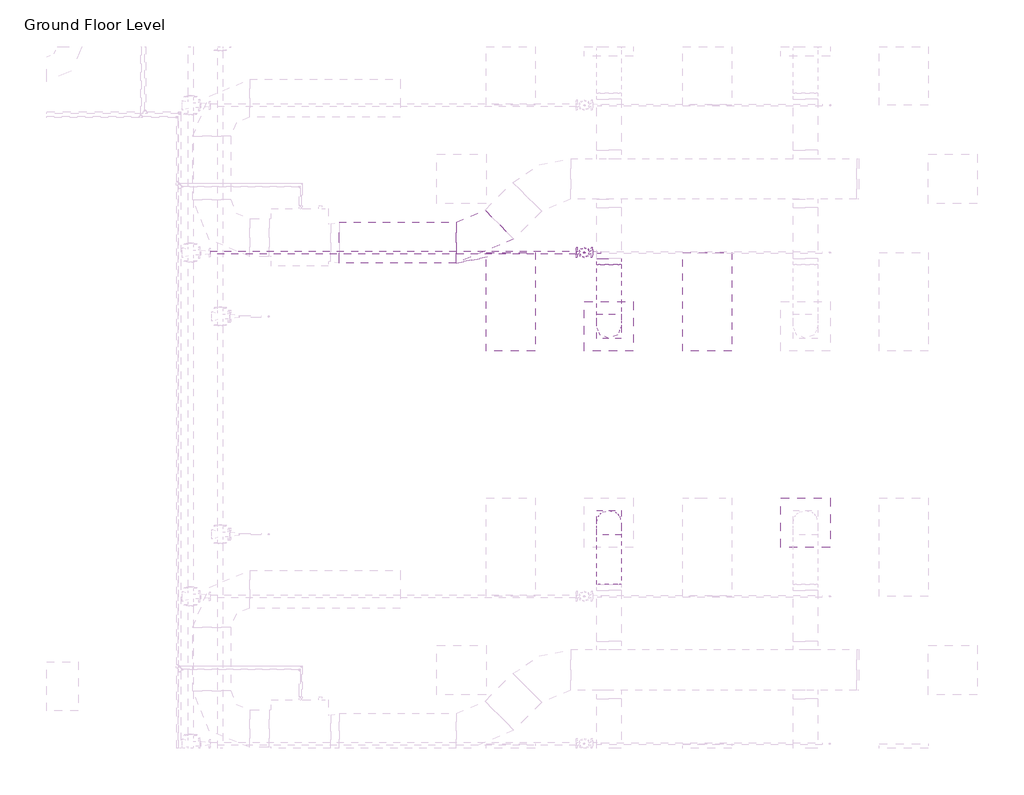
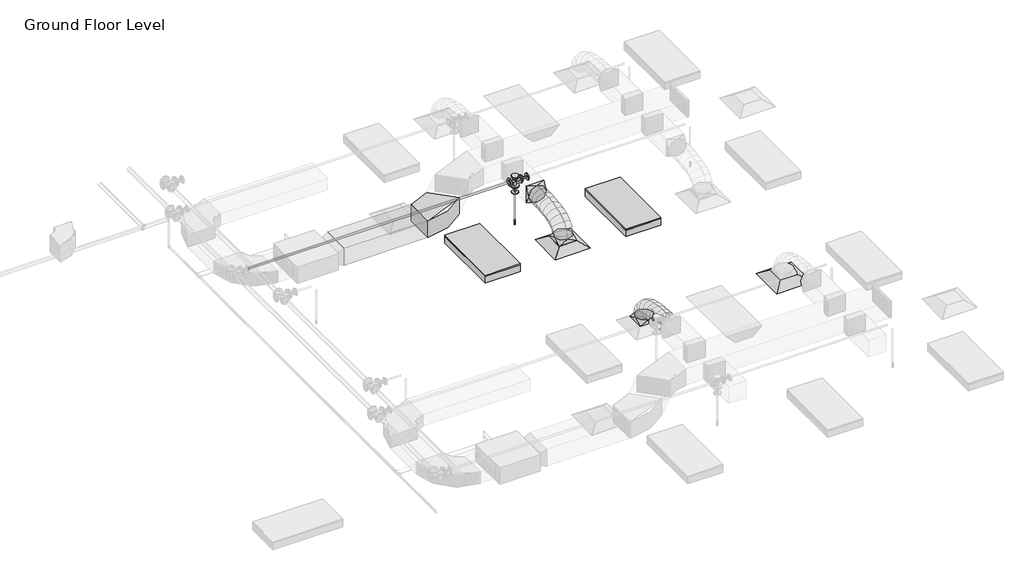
# One storey, part 68 of 74: 4 duct fittings, 3 duct segments, 3 pipe fittings, 2 air terminals, 2 light fixtures, 2 pipe segments, 1 fire suppression terminal.
"""IFC4 building model written with IfcOpenShell, lengths in millimetres."""

from ifc_helpers import new_model, si_unit, point, frame, frame_2d, origin, place, context, project, spatial, polyline, circle_curve, ellipse_curve, trimmed, segment, composite_curve, outline, extrude, transform, mapped, element, save
from ifc_brep_helpers import plane_surface, cylinder_surface, advanced_brep
from components import m_return_diffuser_600_x_600_face_300_x_300_connection_ff221211, m_rectangular_elbow_radius_1_5_w_acc56c25, m_rectangular_to_round_transition_angle_45_degree_641efff0, m_sprinkler_dry_pendent_hosted_15_mm_dry_pendent_9bda8e11, m_troffer_light_parabolic_rectangular1_0600x1200mm_4_lamp_86473d4a, m_reducer_flanged_cs_class_150_standard_ccf252ad, m_tee_round_base_flanged_cs_class_150_standard_7e5987a1

model = new_model("IFC4")

# Units and contexts
model_context = context("Model", 3, world=origin())
ifc_project = project(units=[si_unit("LENGTHUNIT", "METRE", prefix="MILLI")], contexts=[model_context])

# Site, building, storey
site = spatial("IfcSite", under=ifc_project)
building = spatial("IfcBuilding", under=site)
storey = spatial("IfcBuildingStorey", under=building, Name="Ground Floor Level", Elevation=900.0)

# Air terminals
placement = place(None, origin())
m_return_diffuser_600_x_600_face_300_x_300_connection_shape = m_return_diffuser_600_x_600_face_300_x_300_connection_ff221211(model_context)
element("IfcAirTerminal", 1, ObjectType="M_Supply Diffuser : 600 x 600 Face 300 x 300 Connection", at=placement, inside=storey, context=model_context, shape_type="MappedRepresentation", body=[
    mapped(m_return_diffuser_600_x_600_face_300_x_300_connection_shape, transform((10742.7672395, 10935.2153534, 3650.0), x_axis=(1.0, 0.0, 0.0), y_axis=(0.0, 1.0, 0.0), z_axis=(0.0, 0.0, 1.0))),
])
element("IfcAirTerminal", 2, ObjectType="M_Supply Diffuser : 600 x 600 Face 300 x 300 Connection", at=placement, inside=storey, context=model_context, shape_type="MappedRepresentation", body=[
    mapped(m_return_diffuser_600_x_600_face_300_x_300_connection_shape, transform((13142.7672395, 8535.2153534, 3650.0), x_axis=(1.0, 0.0, 0.0), y_axis=(0.0, 1.0, 0.0), z_axis=(0.0, 0.0, 1.0))),
])

# Duct fittings
m_rectangular_elbow_radius_1_5_w_shape = m_rectangular_elbow_radius_1_5_w_acc56c25(model_context)
element("IfcDuctFitting", 3, ObjectType="M_Rectangular Elbow - Radius : 1.5 W", at=placement, inside=storey, context=model_context, shape_type="MappedRepresentation", body=[
    mapped(m_rectangular_elbow_radius_1_5_w_shape, transform((9187.6927358, 11956.1779527, 4100.0047224), x_axis=(0.9999999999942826, 0.0, -3.3815582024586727e-06), y_axis=(-9.063610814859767e-12, 0.9999999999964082, -2.680306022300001e-06), z_axis=(3.3815582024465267e-06, 2.6803060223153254e-06, 0.9999999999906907))),
])
m_rectangular_to_round_transition_angle_45_degree_shape = m_rectangular_to_round_transition_angle_45_degree_641efff0(model_context)
element("IfcDuctFitting", 4, ObjectType="M_Rectangular to Round Transition - Angle : 45 Degree", at=placement, inside=storey, context=model_context, shape_type="MappedRepresentation", body=[
    mapped(m_rectangular_to_round_transition_angle_45_degree_shape, transform((10742.7672395, 8535.2153534, 3751.6), x_axis=(0.0, 0.0, 1.0), y_axis=(-1.0, 0.0, 0.0), z_axis=(0.0, -1.0, 0.0))),
])
element("IfcDuctFitting", 5, ObjectType="M_Rectangular to Round Transition - Angle : 45 Degree", at=placement, inside=storey, context=model_context, shape_type="MappedRepresentation", body=[
    mapped(m_rectangular_to_round_transition_angle_45_degree_shape, transform((10742.7672395, 10935.2153534, 3751.6), x_axis=(0.0, 0.0, 1.0), y_axis=(-1.0, 0.0, 0.0), z_axis=(0.0, -1.0, 0.0))),
])
element("IfcDuctFitting", 6, ObjectType="M_Rectangular to Round Transition - Angle : 45 Degree", at=placement, inside=storey, context=model_context, shape_type="MappedRepresentation", body=[
    mapped(m_rectangular_to_round_transition_angle_45_degree_shape, transform((10742.7672395, 11762.5512847, 4100.0), x_axis=(0.0, -1.0, 0.0), y_axis=(1.0, 0.0, 0.0), z_axis=(0.0, 0.0, 1.0))),
])

# Duct segments
element("IfcDuctSegment", 7, ObjectType="Flex - Round", at=placement, inside=storey, context=model_context, shape_type="AdvancedBrep", body=[
    advanced_brep(
    [(10892.7672395, 8535.2153534, 3826.6), (10742.7672395, 8385.2153534, 3826.6), (10592.7672395, 8535.2153534, 3826.6), (10742.7672395, 8685.2153534, 3826.6), (10892.7672395, 8535.2153534, 3857.9377114), (10742.7672395, 8385.2153534, 3832.2944892), (10592.7672395, 8535.2153534, 3857.9377114), (10742.7672395, 8685.2153534, 3883.5809337), (10892.7672395, 8518.1994208, 3906.2505728), (10742.7672395, 8384.4614419, 3834.435049), (10592.7672395, 8518.1994208, 3906.2505728), (10742.7672395, 8651.9373998, 3978.0660967), (10892.7672395, 8471.0155405, 3968.7113131), (10742.7672395, 8366.8096412, 3857.8020236), (10592.7672395, 8471.0155405, 3968.7113131), (10742.7672395, 8575.2214397, 4079.6206026), (10892.7672395, 8399.4595883, 4016.0700639), (10742.7672395, 8330.5255327, 3881.8163788), (10592.7672395, 8399.4595883, 4016.0700639), (10742.7672395, 8468.3936439, 4150.3237489), (10892.7672395, 8309.3274403, 4050.4146682), (10742.7672395, 8265.7666771, 3906.4925606), (10592.7672395, 8309.3274403, 4050.4146682), (10742.7672395, 8352.8882035, 4194.3367758), (10892.7672395, 8206.4149725, 4073.8329691), (10742.7672395, 8179.8540485, 3926.0424542), (10592.7672395, 8206.4149725, 4073.8329691), (10742.7672395, 8232.9758965, 4221.6234841), (10892.7672395, 8096.5180607, 4088.4128097), (10742.7672395, 8081.3671584, 3939.1085462), (10592.7672395, 8096.5180607, 4088.4128097), (10742.7672395, 8111.6689631, 4237.7170733), (10892.7672395, 7985.4325811, 4096.242033), (10742.7672395, 7977.9272529, 3946.398915), (10592.7672395, 7985.4325811, 4096.242033), (10742.7672395, 7992.9379093, 4246.085151), (10892.7672395, 7878.9544096, 4099.4084821), (10742.7672395, 7876.2629165, 3949.4222102), (10592.7672395, 7878.9544096, 4099.4084821), (10742.7672395, 7881.6459027, 4249.394754), (10892.7672395, 7782.8794221, 4100.0), (10742.7672395, 7783.8029299, 4249.9971571), (10592.7672395, 7782.8794221, 4100.0), (10742.7672395, 7781.9559143, 3950.0028429)],
    [
        (0, 1, circle_curve(frame((10742.7672395, 8535.2153534, 3826.6), z_axis=(0.0, 0.0, -1.0), x_axis=(1.0, 0.0, 0.0)), 150.0)),
        (1, 2, circle_curve(frame((10742.7672395, 8535.2153534, 3826.6), z_axis=(0.0, 0.0, -1.0), x_axis=(1.0, 0.0, 0.0)), 150.0)),
        (2, 3, circle_curve(frame((10742.7672395, 8535.2153534, 3826.6), z_axis=(0.0, 0.0, -1.0), x_axis=(1.0, 0.0, 0.0)), 150.0)),
        (3, 0, circle_curve(frame((10742.7672395, 8535.2153534, 3826.6), z_axis=(0.0, 0.0, -1.0), x_axis=(1.0, 0.0, 0.0)), 150.0)),
        (0, 4),
        (4, 5, ellipse_curve(frame((10742.7672395, 8535.2153534, 3857.9377114), z_axis=(0.0, 0.16851014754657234, -0.9856999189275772), x_axis=(0.0, -0.9856999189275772, -0.1685101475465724)), 152.176131, 150.0)),
        (5, 1),
        (5, 6, ellipse_curve(frame((10742.7672395, 8535.2153534, 3857.9377114), z_axis=(0.0, 0.16851014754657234, -0.9856999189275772), x_axis=(0.0, -0.9856999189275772, -0.1685101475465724)), 152.176131, 150.0)),
        (6, 2),
        (6, 7, ellipse_curve(frame((10742.7672395, 8535.2153534, 3857.9377114), z_axis=(0.0, 0.16851014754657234, -0.9856999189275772), x_axis=(0.0, -0.9856999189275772, -0.1685101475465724)), 152.176131, 150.0)),
        (7, 3),
        (7, 4, ellipse_curve(frame((10742.7672395, 8535.2153534, 3857.9377114), z_axis=(0.0, 0.16851014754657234, -0.9856999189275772), x_axis=(0.0, -0.9856999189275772, -0.1685101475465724)), 152.176131, 150.0)),
        (4, 8),
        (8, 9, ellipse_curve(frame((10742.7672395, 8518.1994208, 3906.2505728), z_axis=(0.0, 0.4730922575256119, -0.8810128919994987), x_axis=(0.0, -0.8810128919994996, -0.47309225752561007)), 151.8002519, 150.0)),
        (9, 5),
        (9, 10, ellipse_curve(frame((10742.7672395, 8518.1994208, 3906.2505728), z_axis=(0.0, 0.4730922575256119, -0.8810128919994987), x_axis=(0.0, -0.8810128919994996, -0.47309225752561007)), 151.8002519, 150.0)),
        (10, 6),
        (10, 11, ellipse_curve(frame((10742.7672395, 8518.1994208, 3906.2505728), z_axis=(0.0, 0.4730922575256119, -0.8810128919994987), x_axis=(0.0, -0.8810128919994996, -0.47309225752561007)), 151.8002519, 150.0)),
        (11, 7),
        (11, 8, ellipse_curve(frame((10742.7672395, 8518.1994208, 3906.2505728), z_axis=(0.0, 0.4730922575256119, -0.8810128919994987), x_axis=(0.0, -0.8810128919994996, -0.47309225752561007)), 151.8002519, 150.0)),
        (8, 12),
        (12, 13, ellipse_curve(frame((10742.7672395, 8471.0155405, 3968.7113131), z_axis=(0.0, 0.7287877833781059, -0.6847396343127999), x_axis=(0.0, -0.6847396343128, -0.7287877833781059)), 152.1832446, 150.0)),
        (13, 9),
        (13, 14, ellipse_curve(frame((10742.7672395, 8471.0155405, 3968.7113131), z_axis=(0.0, 0.7287877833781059, -0.6847396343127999), x_axis=(0.0, -0.6847396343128, -0.7287877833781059)), 152.1832446, 150.0)),
        (14, 10),
        (14, 15, ellipse_curve(frame((10742.7672395, 8471.0155405, 3968.7113131), z_axis=(0.0, 0.7287877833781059, -0.6847396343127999), x_axis=(0.0, -0.6847396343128, -0.7287877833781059)), 152.1832446, 150.0)),
        (15, 11),
        (15, 12, ellipse_curve(frame((10742.7672395, 8471.0155405, 3968.7113131), z_axis=(0.0, 0.7287877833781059, -0.6847396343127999), x_axis=(0.0, -0.6847396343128, -0.7287877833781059)), 152.1832446, 150.0)),
        (12, 16),
        (16, 17, ellipse_curve(frame((10742.7672395, 8399.4595883, 4016.0700639), z_axis=(0.0, 0.8895859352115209, -0.4567678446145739), x_axis=(0.0, -0.4567678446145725, -0.8895859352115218)), 150.91705, 150.0)),
        (17, 13),
        (17, 18, ellipse_curve(frame((10742.7672395, 8399.4595883, 4016.0700639), z_axis=(0.0, 0.8895859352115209, -0.4567678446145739), x_axis=(0.0, -0.4567678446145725, -0.8895859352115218)), 150.91705, 150.0)),
        (18, 14),
        (18, 19, ellipse_curve(frame((10742.7672395, 8399.4595883, 4016.0700639), z_axis=(0.0, 0.8895859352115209, -0.4567678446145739), x_axis=(0.0, -0.4567678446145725, -0.8895859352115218)), 150.91705, 150.0)),
        (19, 15),
        (19, 16, ellipse_curve(frame((10742.7672395, 8399.4595883, 4016.0700639), z_axis=(0.0, 0.8895859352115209, -0.4567678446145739), x_axis=(0.0, -0.4567678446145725, -0.8895859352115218)), 150.91705, 150.0)),
        (16, 20),
        (20, 21, ellipse_curve(frame((10742.7672395, 8309.3274403, 4050.4146682), z_axis=(0.0, 0.9571203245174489, -0.2896906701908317), x_axis=(0.0, -0.2896906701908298, -0.9571203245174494)), 150.369921, 150.0)),
        (21, 17),
        (21, 22, ellipse_curve(frame((10742.7672395, 8309.3274403, 4050.4146682), z_axis=(0.0, 0.9571203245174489, -0.2896906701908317), x_axis=(0.0, -0.2896906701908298, -0.9571203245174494)), 150.369921, 150.0)),
        (22, 18),
        (22, 23, ellipse_curve(frame((10742.7672395, 8309.3274403, 4050.4146682), z_axis=(0.0, 0.9571203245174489, -0.2896906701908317), x_axis=(0.0, -0.2896906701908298, -0.9571203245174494)), 150.369921, 150.0)),
        (23, 19),
        (23, 20, ellipse_curve(frame((10742.7672395, 8309.3274403, 4050.4146682), z_axis=(0.0, 0.9571203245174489, -0.2896906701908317), x_axis=(0.0, -0.2896906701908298, -0.9571203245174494)), 150.369921, 150.0)),
        (20, 24),
        (24, 25, ellipse_curve(frame((10742.7672395, 8206.4149725, 4073.8329691), z_axis=(0.0, 0.9842313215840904, -0.1768861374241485), x_axis=(0.0, -0.17688613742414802, -0.9842313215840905)), 150.1583131, 150.0)),
        (25, 21),
        (25, 26, ellipse_curve(frame((10742.7672395, 8206.4149725, 4073.8329691), z_axis=(0.0, 0.9842313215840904, -0.1768861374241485), x_axis=(0.0, -0.17688613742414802, -0.9842313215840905)), 150.1583131, 150.0)),
        (26, 22),
        (26, 27, ellipse_curve(frame((10742.7672395, 8206.4149725, 4073.8329691), z_axis=(0.0, 0.9842313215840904, -0.1768861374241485), x_axis=(0.0, -0.17688613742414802, -0.9842313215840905)), 150.1583131, 150.0)),
        (27, 23),
        (27, 24, ellipse_curve(frame((10742.7672395, 8206.4149725, 4073.8329691), z_axis=(0.0, 0.9842313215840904, -0.1768861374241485), x_axis=(0.0, -0.17688613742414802, -0.9842313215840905)), 150.1583131, 150.0)),
        (24, 28),
        (28, 29, ellipse_curve(frame((10742.7672395, 8096.5180607, 4088.4128097), z_axis=(0.0, 0.9948906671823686, -0.10095821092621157), x_axis=(0.0, -0.100958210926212, -0.9948906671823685)), 150.0710264, 150.0)),
        (29, 25),
        (29, 30, ellipse_curve(frame((10742.7672395, 8096.5180607, 4088.4128097), z_axis=(0.0, 0.9948906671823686, -0.10095821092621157), x_axis=(0.0, -0.100958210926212, -0.9948906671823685)), 150.0710264, 150.0)),
        (30, 26),
        (30, 31, ellipse_curve(frame((10742.7672395, 8096.5180607, 4088.4128097), z_axis=(0.0, 0.9948906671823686, -0.10095821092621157), x_axis=(0.0, -0.100958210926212, -0.9948906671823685)), 150.0710264, 150.0)),
        (31, 27),
        (31, 28, ellipse_curve(frame((10742.7672395, 8096.5180607, 4088.4128097), z_axis=(0.0, 0.9948906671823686, -0.10095821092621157), x_axis=(0.0, -0.100958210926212, -0.9948906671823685)), 150.0710264, 150.0)),
        (28, 32),
        (32, 33, ellipse_curve(frame((10742.7672395, 7985.4325811, 4096.242033), z_axis=(0.0, 0.9987479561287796, -0.05002519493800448), x_axis=(0.0, -0.050025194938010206, -0.9987479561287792)), 150.0309634, 150.0)),
        (33, 29),
        (33, 34, ellipse_curve(frame((10742.7672395, 7985.4325811, 4096.242033), z_axis=(0.0, 0.9987479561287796, -0.05002519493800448), x_axis=(0.0, -0.050025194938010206, -0.9987479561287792)), 150.0309634, 150.0)),
        (34, 30),
        (34, 35, ellipse_curve(frame((10742.7672395, 7985.4325811, 4096.242033), z_axis=(0.0, 0.9987479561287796, -0.05002519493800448), x_axis=(0.0, -0.050025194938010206, -0.9987479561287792)), 150.0309634, 150.0)),
        (35, 31),
        (35, 32, ellipse_curve(frame((10742.7672395, 7985.4325811, 4096.242033), z_axis=(0.0, 0.9987479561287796, -0.05002519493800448), x_axis=(0.0, -0.050025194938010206, -0.9987479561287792)), 150.0309634, 150.0)),
        (32, 36),
        (36, 37, ellipse_curve(frame((10742.7672395, 7878.9544096, 4099.4084821), z_axis=(0.0, 0.9998390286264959, -0.017942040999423), x_axis=(0.0, -0.01794204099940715, -0.9998390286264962)), 150.0104193, 150.0)),
        (37, 33),
        (37, 38, ellipse_curve(frame((10742.7672395, 7878.9544096, 4099.4084821), z_axis=(0.0, 0.9998390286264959, -0.017942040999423), x_axis=(0.0, -0.01794204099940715, -0.9998390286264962)), 150.0104193, 150.0)),
        (38, 34),
        (38, 39, ellipse_curve(frame((10742.7672395, 7878.9544096, 4099.4084821), z_axis=(0.0, 0.9998390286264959, -0.017942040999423), x_axis=(0.0, -0.01794204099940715, -0.9998390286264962)), 150.0104193, 150.0)),
        (39, 35),
        (39, 36, ellipse_curve(frame((10742.7672395, 7878.9544096, 4099.4084821), z_axis=(0.0, 0.9998390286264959, -0.017942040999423), x_axis=(0.0, -0.01794204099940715, -0.9998390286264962)), 150.0104193, 150.0)),
        (40, 41, circle_curve(frame((10742.7672395, 7782.8794221, 4100.0), z_axis=(0.0, -0.9999810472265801, 0.006156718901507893), x_axis=(1.0, 0.0, 0.0)), 150.0)),
        (41, 42, circle_curve(frame((10742.7672395, 7782.8794221, 4100.0), z_axis=(0.0, -0.9999810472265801, 0.006156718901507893), x_axis=(1.0, 0.0, 0.0)), 150.0)),
        (42, 43, circle_curve(frame((10742.7672395, 7782.8794221, 4100.0), z_axis=(0.0, -0.9999810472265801, 0.006156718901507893), x_axis=(1.0, 0.0, 0.0)), 150.0)),
        (43, 40, circle_curve(frame((10742.7672395, 7782.8794221, 4100.0), z_axis=(0.0, -0.9999810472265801, 0.006156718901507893), x_axis=(1.0, 0.0, 0.0)), 150.0)),
        (36, 40),
        (43, 37),
        (42, 38),
        (41, 39),
    ],
    [
        plane_surface(frame((10742.7672395, 8385.2153534, 3826.6), z_axis=(0.0, 0.0, -1.0), x_axis=(1.0, 0.0, 0.0))),
        cylinder_surface(frame((10742.7672395, 8535.2153534, 3826.6), z_axis=(0.0, 0.0, -1.0), x_axis=(1.0, 0.0, 0.0)), 150.0),
        cylinder_surface(frame((10742.7672395, 8535.2153534, 3857.9377114), z_axis=(0.0, 0.3322008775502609, -0.9432086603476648), x_axis=(1.0, 0.0, 0.0)), 150.0),
        cylinder_surface(frame((10742.7672395, 8518.1994208, 3906.2505728), z_axis=(0.0, 0.6027625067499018, -0.7979206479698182), x_axis=(1.0, 0.0, 0.0)), 150.0),
        cylinder_surface(frame((10742.7672395, 8471.0155405, 3968.7113131), z_axis=(0.0, 0.8339024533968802, -0.5519118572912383), x_axis=(1.0, 0.0, 0.0)), 150.0),
        cylinder_surface(frame((10742.7672395, 8399.4595883, 4016.0700639), z_axis=(0.0, 0.934458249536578, -0.35607271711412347), x_axis=(1.0, 0.0, 0.0)), 150.0),
        cylinder_surface(frame((10742.7672395, 8309.3274403, 4050.4146682), z_axis=(0.0, 0.9750732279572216, -0.2218833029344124), x_axis=(1.0, 0.0, 0.0)), 150.0),
        cylinder_surface(frame((10742.7672395, 8206.4149725, 4073.8329691), z_axis=(0.0, 0.9913140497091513, -0.13151598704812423), x_axis=(1.0, 0.0, 0.0)), 150.0),
        cylinder_surface(frame((10742.7672395, 8096.5180607, 4088.4128097), z_axis=(0.0, 0.9975255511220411, -0.07030487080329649), x_axis=(1.0, 0.0, 0.0)), 150.0),
        cylinder_surface(frame((10742.7672395, 7985.4325811, 4096.242033), z_axis=(0.0, 0.9995581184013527, -0.029724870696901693), x_axis=(1.0, 0.0, 0.0)), 150.0),
        plane_surface(frame((10742.7672395, 7781.9559143, 3950.0028429), z_axis=(0.0, -0.9999810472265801, 0.0061567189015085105), x_axis=(1.0, 0.0, 0.0))),
        cylinder_surface(frame((10742.7672395, 7878.9544096, 4099.4084821), z_axis=(0.0, 0.9999810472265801, -0.006156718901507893), x_axis=(1.0, 0.0, 0.0)), 150.0),
    ],
    [
        (0, [[1, 2, 3, 4]]),
        (1, [[-1, 5, 6, 7]]),
        (1, [[-2, -7, 8, 9]]),
        (1, [[-3, -9, 10, 11]]),
        (1, [[-4, -11, 12, -5]]),
        (2, [[-6, 13, 14, 15]]),
        (2, [[-8, -15, 16, 17]]),
        (2, [[-10, -17, 18, 19]]),
        (2, [[-12, -19, 20, -13]]),
        (3, [[-14, 21, 22, 23]]),
        (3, [[-16, -23, 24, 25]]),
        (3, [[-18, -25, 26, 27]]),
        (3, [[-20, -27, 28, -21]]),
        (4, [[-22, 29, 30, 31]]),
        (4, [[-24, -31, 32, 33]]),
        (4, [[-26, -33, 34, 35]]),
        (4, [[-28, -35, 36, -29]]),
        (5, [[-30, 37, 38, 39]]),
        (5, [[-32, -39, 40, 41]]),
        (5, [[-34, -41, 42, 43]]),
        (5, [[-36, -43, 44, -37]]),
        (6, [[-38, 45, 46, 47]]),
        (6, [[-40, -47, 48, 49]]),
        (6, [[-42, -49, 50, 51]]),
        (6, [[-44, -51, 52, -45]]),
        (7, [[-46, 53, 54, 55]]),
        (7, [[-48, -55, 56, 57]]),
        (7, [[-50, -57, 58, 59]]),
        (7, [[-52, -59, 60, -53]]),
        (8, [[-54, 61, 62, 63]]),
        (8, [[-56, -63, 64, 65]]),
        (8, [[-58, -65, 66, 67]]),
        (8, [[-60, -67, 68, -61]]),
        (9, [[-62, 69, 70, 71]]),
        (9, [[-64, -71, 72, 73]]),
        (9, [[-66, -73, 74, 75]]),
        (9, [[-68, -75, 76, -69]]),
        (10, [[77, 78, 79, 80]]),
        (11, [[-70, 81, -80, 82]]),
        (11, [[-72, -82, -79, 83]]),
        (11, [[-74, -83, -78, 84]]),
        (11, [[-76, -84, -77, -81]]),
    ],
),
])
element("IfcDuctSegment", 8, ObjectType="Flex - Round", at=placement, inside=storey, context=model_context, shape_type="AdvancedBrep", body=[
    advanced_brep(
    [(10892.7672395, 10935.2153534, 3826.6), (10742.7672395, 10785.2153534, 3826.6), (10592.7672395, 10935.2153534, 3826.6), (10742.7672395, 11085.2153534, 3826.6), (10892.7672395, 10935.2153534, 3857.9377114), (10742.7672395, 10785.2153534, 3883.5809337), (10592.7672395, 10935.2153534, 3857.9377114), (10742.7672395, 11085.2153534, 3832.2944892), (10892.7672395, 10952.2312859, 3906.2505728), (10742.7672395, 10818.493307, 3978.0660967), (10592.7672395, 10952.2312859, 3906.2505728), (10742.7672395, 11085.9692649, 3834.435049), (10892.7672395, 10999.4151663, 3968.7113131), (10742.7672395, 10895.209267, 4079.6206026), (10592.7672395, 10999.4151663, 3968.7113131), (10742.7672395, 11103.6210655, 3857.8020236), (10892.7672395, 11070.9711184, 4016.0700639), (10742.7672395, 11002.0370628, 4150.3237489), (10592.7672395, 11070.9711184, 4016.0700639), (10742.7672395, 11139.9051741, 3881.8163788), (10892.7672395, 11161.1032664, 4050.4146682), (10742.7672395, 11117.5425033, 4194.3367758), (10592.7672395, 11161.1032664, 4050.4146682), (10742.7672395, 11204.6640296, 3906.4925606), (10892.7672395, 11264.0157343, 4073.8329691), (10742.7672395, 11237.4548103, 4221.6234841), (10592.7672395, 11264.0157343, 4073.8329691), (10742.7672395, 11290.5766583, 3926.0424542), (10892.7672395, 11373.912646, 4088.4128097), (10742.7672395, 11358.7617437, 4237.7170733), (10592.7672395, 11373.912646, 4088.4128097), (10742.7672395, 11389.0635483, 3939.1085462), (10892.7672395, 11484.9981256, 4096.242033), (10742.7672395, 11477.4927975, 4246.085151), (10592.7672395, 11484.9981256, 4096.242033), (10742.7672395, 11492.5034538, 3946.398915), (10892.7672395, 11591.4762972, 4099.4084821), (10742.7672395, 11588.7848041, 4249.394754), (10592.7672395, 11591.4762972, 4099.4084821), (10742.7672395, 11594.1677903, 3949.4222102), (10892.7672395, 11687.5512847, 4100.0), (10742.7672395, 11688.4747925, 3950.0028429), (10592.7672395, 11687.5512847, 4100.0), (10742.7672395, 11686.6277768, 4249.9971571)],
    [
        (0, 1, circle_curve(frame((10742.7672395, 10935.2153534, 3826.6), z_axis=(0.0, 0.0, -1.0), x_axis=(1.0, 0.0, 0.0)), 150.0)),
        (1, 2, circle_curve(frame((10742.7672395, 10935.2153534, 3826.6), z_axis=(0.0, 0.0, -1.0), x_axis=(1.0, 0.0, 0.0)), 150.0)),
        (2, 3, circle_curve(frame((10742.7672395, 10935.2153534, 3826.6), z_axis=(0.0, 0.0, -1.0), x_axis=(1.0, 0.0, 0.0)), 150.0)),
        (3, 0, circle_curve(frame((10742.7672395, 10935.2153534, 3826.6), z_axis=(0.0, 0.0, -1.0), x_axis=(1.0, 0.0, 0.0)), 150.0)),
        (0, 4),
        (4, 5, ellipse_curve(frame((10742.7672395, 10935.2153534, 3857.9377114), z_axis=(0.0, -0.16851014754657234, -0.9856999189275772), x_axis=(0.0, 0.9856999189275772, -0.1685101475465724)), 152.176131, 150.0)),
        (5, 1),
        (5, 6, ellipse_curve(frame((10742.7672395, 10935.2153534, 3857.9377114), z_axis=(0.0, -0.16851014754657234, -0.9856999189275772), x_axis=(0.0, 0.9856999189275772, -0.1685101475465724)), 152.176131, 150.0)),
        (6, 2),
        (6, 7, ellipse_curve(frame((10742.7672395, 10935.2153534, 3857.9377114), z_axis=(0.0, -0.16851014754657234, -0.9856999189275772), x_axis=(0.0, 0.9856999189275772, -0.1685101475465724)), 152.176131, 150.0)),
        (7, 3),
        (7, 4, ellipse_curve(frame((10742.7672395, 10935.2153534, 3857.9377114), z_axis=(0.0, -0.16851014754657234, -0.9856999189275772), x_axis=(0.0, 0.9856999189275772, -0.1685101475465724)), 152.176131, 150.0)),
        (4, 8),
        (8, 9, ellipse_curve(frame((10742.7672395, 10952.2312859, 3906.2505728), z_axis=(0.0, -0.47309225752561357, -0.8810128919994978), x_axis=(0.0, 0.8810128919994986, -0.47309225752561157)), 151.8002519, 150.0)),
        (9, 5),
        (9, 10, ellipse_curve(frame((10742.7672395, 10952.2312859, 3906.2505728), z_axis=(0.0, -0.47309225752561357, -0.8810128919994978), x_axis=(0.0, 0.8810128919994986, -0.47309225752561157)), 151.8002519, 150.0)),
        (10, 6),
        (10, 11, ellipse_curve(frame((10742.7672395, 10952.2312859, 3906.2505728), z_axis=(0.0, -0.47309225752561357, -0.8810128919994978), x_axis=(0.0, 0.8810128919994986, -0.47309225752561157)), 151.8002519, 150.0)),
        (11, 7),
        (11, 8, ellipse_curve(frame((10742.7672395, 10952.2312859, 3906.2505728), z_axis=(0.0, -0.47309225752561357, -0.8810128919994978), x_axis=(0.0, 0.8810128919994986, -0.47309225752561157)), 151.8002519, 150.0)),
        (8, 12),
        (12, 13, ellipse_curve(frame((10742.7672395, 10999.4151663, 3968.7113131), z_axis=(0.0, -0.7287877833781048, -0.6847396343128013), x_axis=(0.0, 0.6847396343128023, -0.7287877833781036)), 152.1832446, 150.0)),
        (13, 9),
        (13, 14, ellipse_curve(frame((10742.7672395, 10999.4151663, 3968.7113131), z_axis=(0.0, -0.7287877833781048, -0.6847396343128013), x_axis=(0.0, 0.6847396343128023, -0.7287877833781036)), 152.1832446, 150.0)),
        (14, 10),
        (14, 15, ellipse_curve(frame((10742.7672395, 10999.4151663, 3968.7113131), z_axis=(0.0, -0.7287877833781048, -0.6847396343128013), x_axis=(0.0, 0.6847396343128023, -0.7287877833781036)), 152.1832446, 150.0)),
        (15, 11),
        (15, 12, ellipse_curve(frame((10742.7672395, 10999.4151663, 3968.7113131), z_axis=(0.0, -0.7287877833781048, -0.6847396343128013), x_axis=(0.0, 0.6847396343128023, -0.7287877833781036)), 152.1832446, 150.0)),
        (12, 16),
        (16, 17, ellipse_curve(frame((10742.7672395, 11070.9711184, 4016.0700639), z_axis=(0.0, -0.8895859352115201, -0.45676784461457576), x_axis=(0.0, 0.45676784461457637, -0.8895859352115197)), 150.91705, 150.0)),
        (17, 13),
        (17, 18, ellipse_curve(frame((10742.7672395, 11070.9711184, 4016.0700639), z_axis=(0.0, -0.8895859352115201, -0.45676784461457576), x_axis=(0.0, 0.45676784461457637, -0.8895859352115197)), 150.91705, 150.0)),
        (18, 14),
        (18, 19, ellipse_curve(frame((10742.7672395, 11070.9711184, 4016.0700639), z_axis=(0.0, -0.8895859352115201, -0.45676784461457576), x_axis=(0.0, 0.45676784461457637, -0.8895859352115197)), 150.91705, 150.0)),
        (19, 15),
        (19, 16, ellipse_curve(frame((10742.7672395, 11070.9711184, 4016.0700639), z_axis=(0.0, -0.8895859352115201, -0.45676784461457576), x_axis=(0.0, 0.45676784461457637, -0.8895859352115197)), 150.91705, 150.0)),
        (16, 20),
        (20, 21, ellipse_curve(frame((10742.7672395, 11161.1032664, 4050.4146682), z_axis=(0.0, -0.9571203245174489, -0.2896906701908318), x_axis=(0.0, 0.28969067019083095, -0.9571203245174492)), 150.369921, 150.0)),
        (21, 17),
        (21, 22, ellipse_curve(frame((10742.7672395, 11161.1032664, 4050.4146682), z_axis=(0.0, -0.9571203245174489, -0.2896906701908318), x_axis=(0.0, 0.28969067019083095, -0.9571203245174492)), 150.369921, 150.0)),
        (22, 18),
        (22, 23, ellipse_curve(frame((10742.7672395, 11161.1032664, 4050.4146682), z_axis=(0.0, -0.9571203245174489, -0.2896906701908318), x_axis=(0.0, 0.28969067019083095, -0.9571203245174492)), 150.369921, 150.0)),
        (23, 19),
        (23, 20, ellipse_curve(frame((10742.7672395, 11161.1032664, 4050.4146682), z_axis=(0.0, -0.9571203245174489, -0.2896906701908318), x_axis=(0.0, 0.28969067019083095, -0.9571203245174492)), 150.369921, 150.0)),
        (20, 24),
        (24, 25, ellipse_curve(frame((10742.7672395, 11264.0157343, 4073.8329691), z_axis=(0.0, -0.9842313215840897, -0.17688613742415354), x_axis=(0.0, 0.1768861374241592, -0.9842313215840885)), 150.1583131, 150.0)),
        (25, 21),
        (25, 26, ellipse_curve(frame((10742.7672395, 11264.0157343, 4073.8329691), z_axis=(0.0, -0.9842313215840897, -0.17688613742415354), x_axis=(0.0, 0.1768861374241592, -0.9842313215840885)), 150.1583131, 150.0)),
        (26, 22),
        (26, 27, ellipse_curve(frame((10742.7672395, 11264.0157343, 4073.8329691), z_axis=(0.0, -0.9842313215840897, -0.17688613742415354), x_axis=(0.0, 0.1768861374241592, -0.9842313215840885)), 150.1583131, 150.0)),
        (27, 23),
        (27, 24, ellipse_curve(frame((10742.7672395, 11264.0157343, 4073.8329691), z_axis=(0.0, -0.9842313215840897, -0.17688613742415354), x_axis=(0.0, 0.1768861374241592, -0.9842313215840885)), 150.1583131, 150.0)),
        (24, 28),
        (28, 29, ellipse_curve(frame((10742.7672395, 11373.912646, 4088.4128097), z_axis=(0.0, -0.9948906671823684, -0.10095821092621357), x_axis=(0.0, 0.10095821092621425, -0.9948906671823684)), 150.0710264, 150.0)),
        (29, 25),
        (29, 30, ellipse_curve(frame((10742.7672395, 11373.912646, 4088.4128097), z_axis=(0.0, -0.9948906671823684, -0.10095821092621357), x_axis=(0.0, 0.10095821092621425, -0.9948906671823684)), 150.0710264, 150.0)),
        (30, 26),
        (30, 31, ellipse_curve(frame((10742.7672395, 11373.912646, 4088.4128097), z_axis=(0.0, -0.9948906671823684, -0.10095821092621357), x_axis=(0.0, 0.10095821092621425, -0.9948906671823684)), 150.0710264, 150.0)),
        (31, 27),
        (31, 28, ellipse_curve(frame((10742.7672395, 11373.912646, 4088.4128097), z_axis=(0.0, -0.9948906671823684, -0.10095821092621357), x_axis=(0.0, 0.10095821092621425, -0.9948906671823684)), 150.0710264, 150.0)),
        (28, 32),
        (32, 33, ellipse_curve(frame((10742.7672395, 11484.9981256, 4096.242033), z_axis=(0.0, -0.9987479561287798, -0.05002519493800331), x_axis=(0.0, 0.050025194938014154, -0.9987479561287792)), 150.0309634, 150.0)),
        (33, 29),
        (33, 34, ellipse_curve(frame((10742.7672395, 11484.9981256, 4096.242033), z_axis=(0.0, -0.9987479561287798, -0.05002519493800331), x_axis=(0.0, 0.050025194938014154, -0.9987479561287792)), 150.0309634, 150.0)),
        (34, 30),
        (34, 35, ellipse_curve(frame((10742.7672395, 11484.9981256, 4096.242033), z_axis=(0.0, -0.9987479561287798, -0.05002519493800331), x_axis=(0.0, 0.050025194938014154, -0.9987479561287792)), 150.0309634, 150.0)),
        (35, 31),
        (35, 32, ellipse_curve(frame((10742.7672395, 11484.9981256, 4096.242033), z_axis=(0.0, -0.9987479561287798, -0.05002519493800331), x_axis=(0.0, 0.050025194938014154, -0.9987479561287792)), 150.0309634, 150.0)),
        (32, 36),
        (36, 37, ellipse_curve(frame((10742.7672395, 11591.4762972, 4099.4084821), z_axis=(0.0, -0.9998390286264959, -0.01794204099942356), x_axis=(-1.8187895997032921e-12, 0.017942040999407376, -0.9998390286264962)), 150.0104193, 150.0)),
        (37, 33),
        (37, 38, ellipse_curve(frame((10742.7672395, 11591.4762972, 4099.4084821), z_axis=(0.0, -0.9998390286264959, -0.01794204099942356), x_axis=(-1.8187895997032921e-12, 0.017942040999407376, -0.9998390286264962)), 150.0104193, 150.0)),
        (38, 34),
        (38, 39, ellipse_curve(frame((10742.7672395, 11591.4762972, 4099.4084821), z_axis=(0.0, -0.9998390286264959, -0.01794204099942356), x_axis=(-1.8187895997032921e-12, 0.017942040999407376, -0.9998390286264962)), 150.0104193, 150.0)),
        (39, 35),
        (39, 36, ellipse_curve(frame((10742.7672395, 11591.4762972, 4099.4084821), z_axis=(0.0, -0.9998390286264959, -0.01794204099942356), x_axis=(-1.8187895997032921e-12, 0.017942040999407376, -0.9998390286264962)), 150.0104193, 150.0)),
        (40, 41, circle_curve(frame((10742.7672395, 11687.5512847, 4100.0), z_axis=(0.0, 0.9999810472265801, 0.006156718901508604), x_axis=(1.0, 0.0, 0.0)), 150.0)),
        (41, 42, circle_curve(frame((10742.7672395, 11687.5512847, 4100.0), z_axis=(0.0, 0.9999810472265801, 0.006156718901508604), x_axis=(1.0, 0.0, 0.0)), 150.0)),
        (42, 43, circle_curve(frame((10742.7672395, 11687.5512847, 4100.0), z_axis=(0.0, 0.9999810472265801, 0.006156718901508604), x_axis=(1.0, 0.0, 0.0)), 150.0)),
        (43, 40, circle_curve(frame((10742.7672395, 11687.5512847, 4100.0), z_axis=(0.0, 0.9999810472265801, 0.006156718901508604), x_axis=(1.0, 0.0, 0.0)), 150.0)),
        (36, 40),
        (43, 37),
        (42, 38),
        (41, 39),
    ],
    [
        plane_surface(frame((10742.7672395, 10785.2153534, 3826.6), z_axis=(0.0, 0.0, -1.0), x_axis=(1.0, 0.0, 0.0))),
        cylinder_surface(frame((10742.7672395, 10935.2153534, 3826.6), z_axis=(0.0, 0.0, -1.0), x_axis=(1.0, 0.0, 0.0)), 150.0),
        cylinder_surface(frame((10742.7672395, 10935.2153534, 3857.9377114), z_axis=(0.0, -0.3322008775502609, -0.9432086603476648), x_axis=(1.0, 0.0, 0.0)), 150.0),
        cylinder_surface(frame((10742.7672395, 10952.2312859, 3906.2505728), z_axis=(0.0, -0.6027625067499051, -0.7979206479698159), x_axis=(1.0, 0.0, 0.0)), 150.0),
        cylinder_surface(frame((10742.7672395, 10999.4151663, 3968.7113131), z_axis=(0.0, -0.833902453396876, -0.5519118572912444), x_axis=(1.0, 0.0, 0.0)), 150.0),
        cylinder_surface(frame((10742.7672395, 11070.9711184, 4016.0700639), z_axis=(0.0, -0.9344582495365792, -0.35607271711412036), x_axis=(1.0, 0.0, 0.0)), 150.0),
        cylinder_surface(frame((10742.7672395, 11161.1032664, 4050.4146682), z_axis=(0.0, -0.9750732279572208, -0.22188330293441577), x_axis=(1.0, 0.0, 0.0)), 150.0),
        cylinder_surface(frame((10742.7672395, 11264.0157343, 4073.8329691), z_axis=(0.0, -0.9913140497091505, -0.131515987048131), x_axis=(1.0, 0.0, 0.0)), 150.0),
        cylinder_surface(frame((10742.7672395, 11373.912646, 4088.4128097), z_axis=(0.0, -0.9975255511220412, -0.07030487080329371), x_axis=(1.0, 0.0, 0.0)), 150.0),
        cylinder_surface(frame((10742.7672395, 11484.9981256, 4096.242033), z_axis=(0.0, -0.9995581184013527, -0.029724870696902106), x_axis=(1.0, 0.0, 0.0)), 150.0),
        plane_surface(frame((10742.7672395, 11686.6277768, 4249.9971571), z_axis=(0.0, 0.9999810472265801, 0.0061567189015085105), x_axis=(1.0, 0.0, 0.0))),
        cylinder_surface(frame((10742.7672395, 11591.4762972, 4099.4084821), z_axis=(0.0, -0.9999810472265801, -0.006156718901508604), x_axis=(1.0, 0.0, 0.0)), 150.0),
    ],
    [
        (0, [[1, 2, 3, 4]]),
        (1, [[-1, 5, 6, 7]]),
        (1, [[-2, -7, 8, 9]]),
        (1, [[-3, -9, 10, 11]]),
        (1, [[-4, -11, 12, -5]]),
        (2, [[-6, 13, 14, 15]]),
        (2, [[-8, -15, 16, 17]]),
        (2, [[-10, -17, 18, 19]]),
        (2, [[-12, -19, 20, -13]]),
        (3, [[-14, 21, 22, 23]]),
        (3, [[-16, -23, 24, 25]]),
        (3, [[-18, -25, 26, 27]]),
        (3, [[-20, -27, 28, -21]]),
        (4, [[-22, 29, 30, 31]]),
        (4, [[-24, -31, 32, 33]]),
        (4, [[-26, -33, 34, 35]]),
        (4, [[-28, -35, 36, -29]]),
        (5, [[-30, 37, 38, 39]]),
        (5, [[-32, -39, 40, 41]]),
        (5, [[-34, -41, 42, 43]]),
        (5, [[-36, -43, 44, -37]]),
        (6, [[-38, 45, 46, 47]]),
        (6, [[-40, -47, 48, 49]]),
        (6, [[-42, -49, 50, 51]]),
        (6, [[-44, -51, 52, -45]]),
        (7, [[-46, 53, 54, 55]]),
        (7, [[-48, -55, 56, 57]]),
        (7, [[-50, -57, 58, 59]]),
        (7, [[-52, -59, 60, -53]]),
        (8, [[-54, 61, 62, 63]]),
        (8, [[-56, -63, 64, 65]]),
        (8, [[-58, -65, 66, 67]]),
        (8, [[-60, -67, 68, -61]]),
        (9, [[-62, 69, 70, 71]]),
        (9, [[-64, -71, 72, 73]]),
        (9, [[-66, -73, 74, 75]]),
        (9, [[-68, -75, 76, -69]]),
        (10, [[77, 78, 79, 80]]),
        (11, [[-70, 81, -80, 82]]),
        (11, [[-72, -82, -79, 83]]),
        (11, [[-74, -83, -78, 84]]),
        (11, [[-76, -84, -77, -81]]),
    ],
),
])
element("IfcDuctSegment", 9, ObjectType="Radius Elbows / Taps", at=placement, inside=storey, context=model_context, shape_type="SweptSolid", body=[
    extrude(outline(polyline([(7447.693178, 11706.1779527), (7447.693178, 12206.1779527), (8877.032564, 12206.1779527), (8877.032564, 11706.1779527), (7447.693178, 11706.1779527)])), frame((0.0, 0.0, 3950.0057729), z_axis=(0.0, 0.0, 1.0), x_axis=(1.0, 0.0, 0.0)), (0.0, 0.0, 1.0), 300.0),
])

# Fire suppression terminal
m_sprinkler_dry_pendent_hosted_15_mm_dry_pendent_shape = m_sprinkler_dry_pendent_hosted_15_mm_dry_pendent_9bda8e11(model_context)
element("IfcFireSuppressionTerminal", 10, ObjectType="M_Sprinkler - Dry - Pendent - Hosted : 15 mm Dry Pendent", at=placement, inside=storey, context=model_context, shape_type="MappedRepresentation", body=[
    mapped(m_sprinkler_dry_pendent_hosted_15_mm_dry_pendent_shape, transform((10442.7672395, 11835.2153534, 3650.0), x_axis=(1.0, 0.0, 0.0), y_axis=(0.0, -1.0, 0.0), z_axis=(0.0, 0.0, -1.0))),
])

# Light fixtures
m_troffer_light_parabolic_rectangular1_0600x1200mm_4_lamp_shape = m_troffer_light_parabolic_rectangular1_0600x1200mm_4_lamp_86473d4a(model_context)
element("IfcLightFixture", 11, ObjectType="M_Troffer Light - Parabolic Rectangular1 : 0600x1200mm(4 Lamp) - 277V 2", at=placement, inside=storey, context=model_context, shape_type="MappedRepresentation", body=[
    mapped(m_troffer_light_parabolic_rectangular1_0600x1200mm_4_lamp_shape, transform((9483.3013074, 11253.918855, 3650.0), x_axis=(0.0, 1.0, 0.0), y_axis=(-1.0, 0.0, 0.0), z_axis=(0.0, 0.0, 1.0))),
])
element("IfcLightFixture", 12, ObjectType="M_Troffer Light - Parabolic Rectangular1 : 0600x1200mm(4 Lamp) - 277V 2", at=placement, inside=storey, context=model_context, shape_type="MappedRepresentation", body=[
    mapped(m_troffer_light_parabolic_rectangular1_0600x1200mm_4_lamp_shape, transform((11883.3013074, 11253.918855, 3650.0), x_axis=(0.0, 1.0, 0.0), y_axis=(-1.0, 0.0, 0.0), z_axis=(0.0, 0.0, 1.0))),
])

# Pipe fittings
m_reducer_flanged_cs_class_150_standard_shape = m_reducer_flanged_cs_class_150_standard_ccf252ad(model_context)
element("IfcPipeFitting", 13, ObjectType="M_Reducer - Flanged - CS - Class 150 : Standard", at=placement, inside=storey, context=model_context, shape_type="MappedRepresentation", body=[
    mapped(m_reducer_flanged_cs_class_150_standard_shape, transform((10543.4758332, 11835.2153534, 4360.0), x_axis=(1.0, 0.0, 0.0), y_axis=(0.0, 0.0, 1.0), z_axis=(0.0, -1.0, 0.0))),
])
element("IfcPipeFitting", 14, ObjectType="M_Reducer - Flanged - CS - Class 150 : Standard", at=placement, inside=storey, context=model_context, shape_type="MappedRepresentation", body=[
    mapped(m_reducer_flanged_cs_class_150_standard_shape, transform((10442.7672395, 11835.2153534, 4259.2914062), x_axis=(0.0, 0.0, -1.0), y_axis=(-1.0, 0.0, 0.0), z_axis=(0.0, 1.0, 0.0))),
])
m_tee_round_base_flanged_cs_class_150_standard_shape = m_tee_round_base_flanged_cs_class_150_standard_7e5987a1(model_context)
element("IfcPipeFitting", 15, ObjectType="M_Tee Round Base - Flanged - CS - Class 150 : Standard", at=placement, inside=storey, context=model_context, shape_type="MappedRepresentation", body=[
    mapped(m_tee_round_base_flanged_cs_class_150_standard_shape, transform((10442.7672395, 11835.2153534, 4360.0), x_axis=(1.0, 0.0, 0.0), y_axis=(0.0, 0.0, 1.0), z_axis=(0.0, -1.0, 0.0))),
])

# Pipe segments
element("IfcPipeSegment", 16, ObjectType="Steel flanged", at=placement, inside=storey, context=model_context, shape_type="SweptSolid", body=[
    extrude(outline(composite_curve([segment(trimmed(circle_curve(frame_2d((10442.7672395, 11835.2153534)), 10.668), [point((10432.0992395, 11835.2153534))], [point((10442.7672395, 11845.8833534))], False, "CARTESIAN"), True, "CONTINUOUS"), segment(trimmed(circle_curve(frame_2d((10442.7672395, 11835.2153534)), 10.668), [point((10442.7672395, 11845.8833534))], [point((10453.4352395, 11835.2153534))], False, "CARTESIAN"), True, "CONTINUOUS"), segment(trimmed(circle_curve(frame_2d((10442.7672395, 11835.2153534)), 10.668), [point((10453.4352395, 11835.2153534))], [point((10442.7672395, 11824.5473534))], False, "CARTESIAN"), True, "CONTINUOUS"), segment(trimmed(circle_curve(frame_2d((10442.7672395, 11835.2153534)), 10.668), [point((10442.7672395, 11824.5473534))], [point((10432.0992395, 11835.2153534))], False, "CARTESIAN"), True, "CONTINUOUS")], self_intersect=False)), frame((0.0, 0.0, 3650.0), z_axis=(0.0, 0.0, 1.0), x_axis=(1.0, 0.0, 0.0)), (0.0, 0.0, 1.0), 495.2914062),
])
element("IfcPipeSegment", 17, ObjectType="Steel flanged", at=placement, inside=storey, context=model_context, shape_type="SweptSolid", body=[
    extrude(outline(composite_curve([segment(trimmed(circle_curve(frame_2d((11835.2153534, 4360.0)), 16.7005), [point((11851.9158534, 4360.0))], [point((11835.2153534, 4343.2995))], False, "CARTESIAN"), True, "CONTINUOUS"), segment(trimmed(circle_curve(frame_2d((11835.2153534, 4360.0)), 16.7005), [point((11835.2153534, 4343.2995))], [point((11818.5148534, 4360.0))], False, "CARTESIAN"), True, "CONTINUOUS"), segment(trimmed(circle_curve(frame_2d((11835.2153534, 4360.0)), 16.7005), [point((11818.5148534, 4360.0))], [point((11835.2153534, 4376.7005))], False, "CARTESIAN"), True, "CONTINUOUS"), segment(trimmed(circle_curve(frame_2d((11835.2153534, 4360.0)), 16.7005), [point((11835.2153534, 4376.7005))], [point((11851.9158534, 4360.0))], False, "CARTESIAN"), True, "CONTINUOUS")], self_intersect=False)), frame((5876.869498, 0.0, 0.0), z_axis=(1.0, 0.0, 0.0), x_axis=(0.0, 1.0, 0.0)), (0.0, 0.0, 1.0), 4465.1891477),
])

save(model, "model.ifc")
